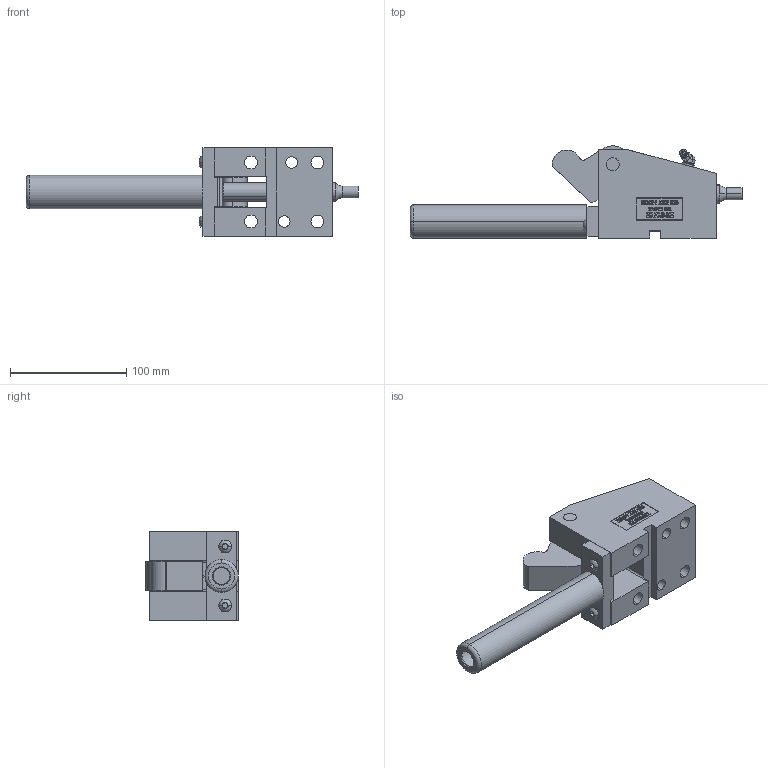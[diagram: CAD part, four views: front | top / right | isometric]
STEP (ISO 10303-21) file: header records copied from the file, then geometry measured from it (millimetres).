
FILE_DESCRIPTION (( 'STEP AP214' ), '1' );
FILE_NAME ('MOL62545-O.STEP', '2014-01-07T22:29:51', ( 'user' ), ( '' ), 'SwSTEP 2.0', 'SolidWorks 2009', '' );
FILE_SCHEMA (( 'AUTOMOTIVE_DESIGN' ));
Length unit declared in the file: inch
Products named in the file (1): MOL62545-O
Bounding box: 285.62 x 79.37 x 76.2 mm (x, y, z)
Surface area: 106164.1 mm2 (no closed solid volume)
Topology: 0 solids, 10 shells, 427 faces, 1469 edges, 1004 vertices
Faces by surface type: plane 237, bspline 82, cylinder 72, torus 20, cone 12, sphere 4
Entity records: 26521 total; most frequent: CARTESIAN_POINT 9172, ORIENTED_EDGE 2416, DIRECTION 2067, EDGE_CURVE 1467, VERTEX_POINT 1004, VECTOR 959, LINE 959, AXIS2_PLACEMENT_3D 554
